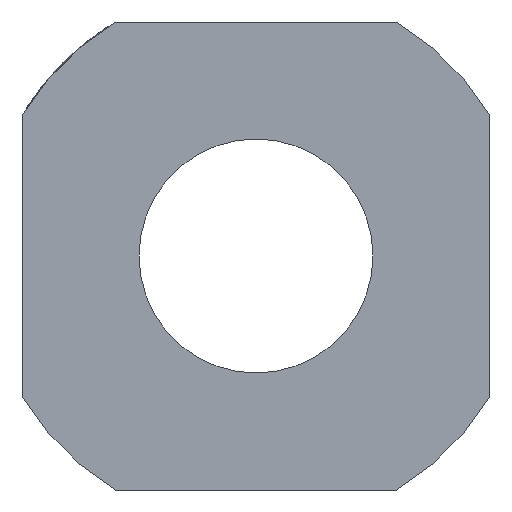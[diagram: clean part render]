
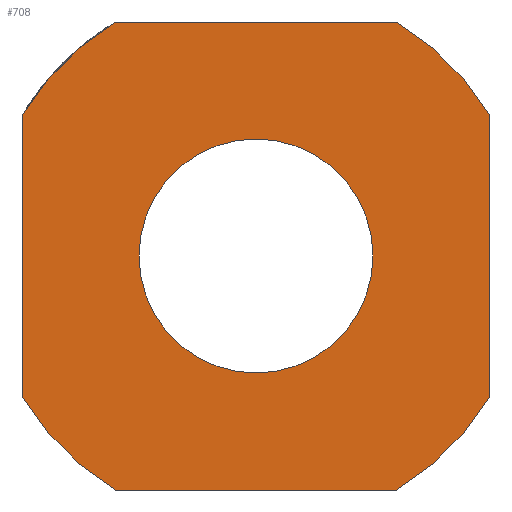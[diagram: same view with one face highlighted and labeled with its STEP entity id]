
A CAD part, left-side view. The second image highlights one B-rep face of the part: STEP entity #708.
In plain terms, the highlighted planar face has unit normal (-1, 0, 0).
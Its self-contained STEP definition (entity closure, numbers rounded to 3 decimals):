
#403=CARTESIAN_POINT('',(0.0,-3.,0.0));
#404=VERTEX_POINT('',#403);
#405=CARTESIAN_POINT('',(0.0,0.0,0.0));
#406=DIRECTION('',(1.0,0.0,0.0));
#407=DIRECTION('',(0.0,-1.0,0.0));
#408=AXIS2_PLACEMENT_3D('',#405,#406,#407);
#409=CIRCLE('',#408,3.);
#410=EDGE_CURVE('',#404,#404,#409,.T.);
#430=CARTESIAN_POINT('',(0.0,3.606,6.));
#431=VERTEX_POINT('',#430);
#438=CARTESIAN_POINT('',(0.0,-3.606,6.));
#439=VERTEX_POINT('',#438);
#440=CARTESIAN_POINT('',(0.0,-3.606,6.));
#441=DIRECTION('',(0.0,1.0,0.0));
#442=VECTOR('',#441,7.211);
#443=LINE('',#440,#442);
#444=EDGE_CURVE('',#439,#431,#443,.T.);
#470=CARTESIAN_POINT('',(0.0,-3.606,-6.));
#471=VERTEX_POINT('',#470);
#478=CARTESIAN_POINT('',(0.0,3.606,-6.));
#479=VERTEX_POINT('',#478);
#480=CARTESIAN_POINT('',(0.0,3.606,-6.));
#481=DIRECTION('',(0.0,-1.0,0.0));
#482=VECTOR('',#481,7.211);
#483=LINE('',#480,#482);
#484=EDGE_CURVE('',#479,#471,#483,.T.);
#510=CARTESIAN_POINT('',(0.0,-6.,3.606));
#511=VERTEX_POINT('',#510);
#518=CARTESIAN_POINT('',(0.0,-6.,-3.606));
#519=VERTEX_POINT('',#518);
#520=CARTESIAN_POINT('',(0.0,-6.,-3.606));
#521=DIRECTION('',(0.0,0.0,1.0));
#522=VECTOR('',#521,7.211);
#523=LINE('',#520,#522);
#524=EDGE_CURVE('',#519,#511,#523,.T.);
#550=CARTESIAN_POINT('',(0.0,6.,-3.606));
#551=VERTEX_POINT('',#550);
#558=CARTESIAN_POINT('',(0.0,6.,3.606));
#559=VERTEX_POINT('',#558);
#560=CARTESIAN_POINT('',(0.0,6.,3.606));
#561=DIRECTION('',(0.0,0.0,-1.0));
#562=VECTOR('',#561,7.211);
#563=LINE('',#560,#562);
#564=EDGE_CURVE('',#559,#551,#563,.T.);
#581=CARTESIAN_POINT('',(0.0,0.0,0.0));
#582=DIRECTION('',(1.0,0.0,0.0));
#583=DIRECTION('',(0.0,1.0,0.0));
#584=AXIS2_PLACEMENT_3D('',#581,#582,#583);
#585=CIRCLE('',#584,7.);
#586=EDGE_CURVE('',#479,#551,#585,.T.);
#613=CARTESIAN_POINT('',(0.0,0.0,0.0));
#614=DIRECTION('',(1.0,0.0,0.0));
#615=DIRECTION('',(0.0,1.0,0.0));
#616=AXIS2_PLACEMENT_3D('',#613,#614,#615);
#617=CIRCLE('',#616,7.);
#618=EDGE_CURVE('',#519,#471,#617,.T.);
#637=CARTESIAN_POINT('',(0.0,0.0,0.0));
#638=DIRECTION('',(1.0,0.0,0.0));
#639=DIRECTION('',(0.0,1.0,0.0));
#640=AXIS2_PLACEMENT_3D('',#637,#638,#639);
#641=CIRCLE('',#640,7.);
#642=EDGE_CURVE('',#559,#431,#641,.T.);
#684=CARTESIAN_POINT('',(0.0,3.5,0.0));
#685=DIRECTION('',(-1.0,0.0,0.0));
#686=DIRECTION('',(0.0,0.0,1.0));
#687=AXIS2_PLACEMENT_3D('',#684,#685,#686);
#688=PLANE('',#687);
#689=ORIENTED_EDGE('',*,*,#444,.T.);
#690=ORIENTED_EDGE('',*,*,#642,.F.);
#691=ORIENTED_EDGE('',*,*,#564,.T.);
#692=ORIENTED_EDGE('',*,*,#586,.F.);
#693=ORIENTED_EDGE('',*,*,#484,.T.);
#694=ORIENTED_EDGE('',*,*,#618,.F.);
#695=ORIENTED_EDGE('',*,*,#524,.T.);
#696=CARTESIAN_POINT('',(0.0,0.0,0.0));
#697=DIRECTION('',(1.0,0.0,0.0));
#698=DIRECTION('',(0.0,1.0,0.0));
#699=AXIS2_PLACEMENT_3D('',#696,#697,#698);
#700=CIRCLE('',#699,7.);
#701=EDGE_CURVE('',#439,#511,#700,.T.);
#702=ORIENTED_EDGE('',*,*,#701,.F.);
#703=EDGE_LOOP('',(#689,#690,#691,#692,#693,#694,#695,#702));
#704=FACE_OUTER_BOUND('',#703,.T.);
#705=ORIENTED_EDGE('',*,*,#410,.T.);
#706=EDGE_LOOP('',(#705));
#707=FACE_BOUND('',#706,.T.);
#708=ADVANCED_FACE('',(#704,#707),#688,.T.);
